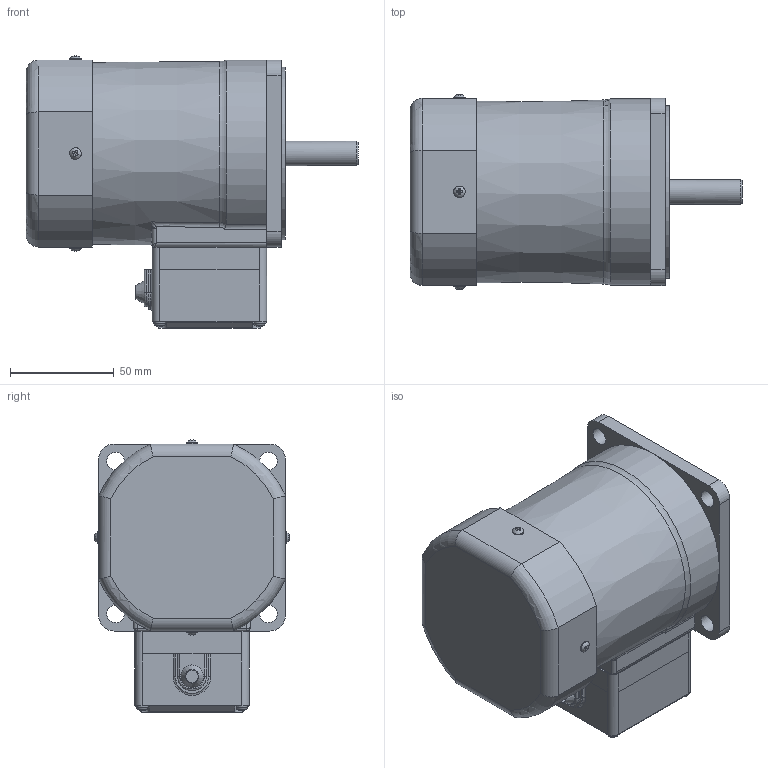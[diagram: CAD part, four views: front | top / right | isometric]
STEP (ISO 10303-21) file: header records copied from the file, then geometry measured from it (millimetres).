
FILE_DESCRIPTION(/* description */ (''),/* implementation_level */ '2;1');
FILE_NAME(/* name */ 'E:\도면작업\2016\0704) 미주향 SG 도면\3D MOTOR\TERMINAL BOX TYPE\INDUCTION TERMINAL BOX\SG9I60K_-T1.stp',/* time_stamp */ '2017-01-23T18:57:09+09:00',/* author */ ('jy-jung'),/* organization */ (''),/* preprocessor_version */ 'ST-DEVELOPER v15.6',/* originating_system */ 'Autodesk Inventor 2015',/* authorisation */ '');
FILE_SCHEMA (('AUTOMOTIVE_DESIGN { 1 0 10303 214 3 1 1 }'));
Length unit declared in the file: millimetre
Products named in the file (1): 부품1
Bounding box: 159.8 x 93.89 x 130.95 mm (x, y, z)
Volume: 923990.5 mm3; surface area: 67275.9 mm2
Topology: 1 solids, 6 shells, 356 faces, 928 edges, 595 vertices
Faces by surface type: plane 175, cylinder 71, cone 48, torus 36, bspline 22, sphere 4
Full cylindrical faces by diameter (mm): 3 x4, 3.5 x4, 5.6 x4, 8 x1, 8.5 x4, 12 x1, 40 x1, 83 x1
Entity records: 12085 total; most frequent: CARTESIAN_POINT 3537, ORIENTED_EDGE 1730, DIRECTION 1646, EDGE_CURVE 865, AXIS2_PLACEMENT_3D 625, VERTEX_POINT 583, EDGE_LOOP 432, LINE 396
